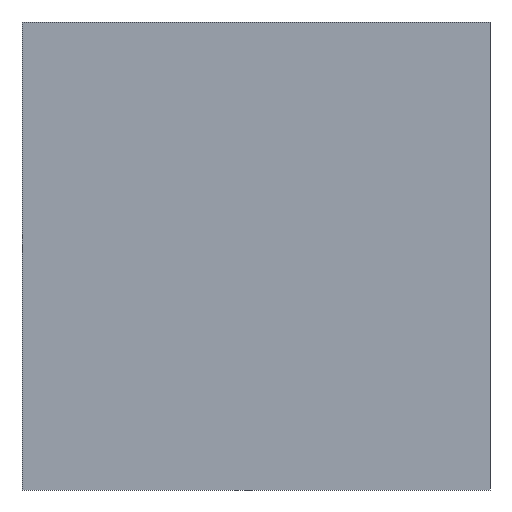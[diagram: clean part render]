
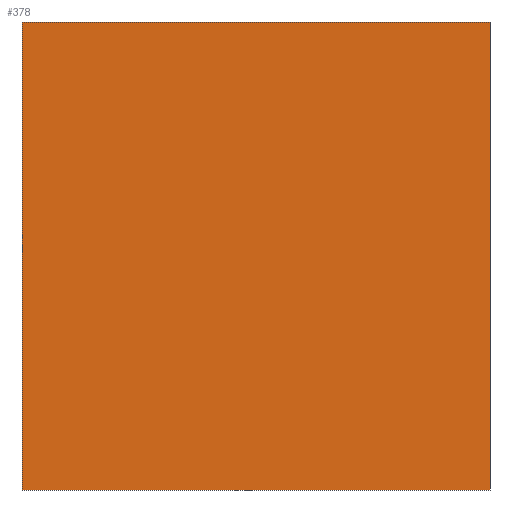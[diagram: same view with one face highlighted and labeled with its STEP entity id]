
A CAD part, left-side view. The second image highlights one B-rep face of the part: STEP entity #378.
In plain terms, the highlighted planar face has unit normal (-1, 0, 0).
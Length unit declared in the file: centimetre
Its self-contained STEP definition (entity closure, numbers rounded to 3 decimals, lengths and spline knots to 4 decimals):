
#15 = LINE ( 'NONE', #374, #51 ) ;
#16 = LINE ( 'NONE', #383, #183 ) ;
#17 = VERTEX_POINT ( 'NONE', #367 ) ;
#18 = DIRECTION ( 'NONE',  ( 1., 0., 0. ) ) ;
#32 = DIRECTION ( 'NONE',  ( 0., 0., -1. ) ) ;
#48 = PLANE ( 'NONE',  #213 ) ;
#51 = VECTOR ( 'NONE', #112, 100. ) ;
#54 = EDGE_CURVE ( 'NONE', #87, #17, #96, .T. ) ;
#87 = VERTEX_POINT ( 'NONE', #442 ) ;
#95 = EDGE_LOOP ( 'NONE', ( #230, #309, #314, #122 ) ) ;
#96 = LINE ( 'NONE', #324, #159 ) ;
#100 = LINE ( 'NONE', #327, #137 ) ;
#108 = CARTESIAN_POINT ( 'NONE',  ( 0., 1000., 0. ) ) ;
#112 = DIRECTION ( 'NONE',  ( 0., 0., -1. ) ) ;
#122 = ORIENTED_EDGE ( 'NONE', *, *, #148, .T. ) ;
#137 = VECTOR ( 'NONE', #32, 100. ) ;
#148 = EDGE_CURVE ( 'NONE', #87, #395, #15, .T. ) ;
#152 = VERTEX_POINT ( 'NONE', #301 ) ;
#159 = VECTOR ( 'NONE', #475, 100. ) ;
#183 = VECTOR ( 'NONE', #422, 100. ) ;
#213 = AXIS2_PLACEMENT_3D ( 'NONE', #300, #18, #454 ) ;
#230 = ORIENTED_EDGE ( 'NONE', *, *, #362, .T. ) ;
#231 = FACE_OUTER_BOUND ( 'NONE', #95, .T. ) ;
#273 = EDGE_CURVE ( 'NONE', #17, #152, #100, .T. ) ;
#300 = CARTESIAN_POINT ( 'NONE',  ( 0., 1000., 1000. ) ) ;
#301 = CARTESIAN_POINT ( 'NONE',  ( 0., 0., 0. ) ) ;
#309 = ORIENTED_EDGE ( 'NONE', *, *, #273, .F. ) ;
#314 = ORIENTED_EDGE ( 'NONE', *, *, #54, .F. ) ;
#324 = CARTESIAN_POINT ( 'NONE',  ( 0., 1000., 1000. ) ) ;
#327 = CARTESIAN_POINT ( 'NONE',  ( 0., 0., 1000. ) ) ;
#362 = EDGE_CURVE ( 'NONE', #395, #152, #16, .T. ) ;
#367 = CARTESIAN_POINT ( 'NONE',  ( 0., 0., 1000. ) ) ;
#374 = CARTESIAN_POINT ( 'NONE',  ( 0., 1000., 1000. ) ) ;
#378 = ADVANCED_FACE ( 'NONE', ( #231 ), #48, .F. ) ;
#383 = CARTESIAN_POINT ( 'NONE',  ( 0., 1000., 0. ) ) ;
#395 = VERTEX_POINT ( 'NONE', #108 ) ;
#422 = DIRECTION ( 'NONE',  ( 0., -1., 0. ) ) ;
#442 = CARTESIAN_POINT ( 'NONE',  ( 0., 1000., 1000. ) ) ;
#454 = DIRECTION ( 'NONE',  ( 0., 0., -1. ) ) ;
#475 = DIRECTION ( 'NONE',  ( 0., -1., 0. ) ) ;
